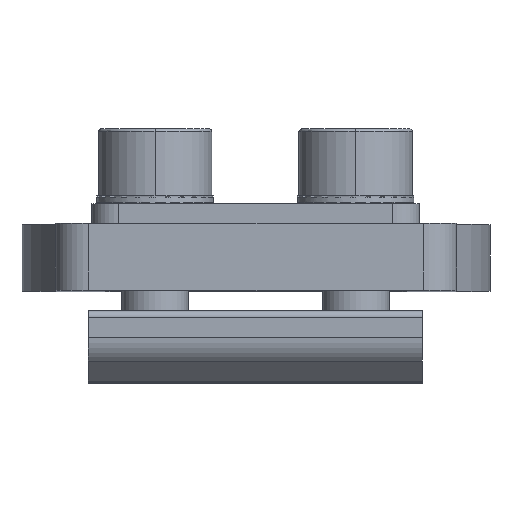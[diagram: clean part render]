
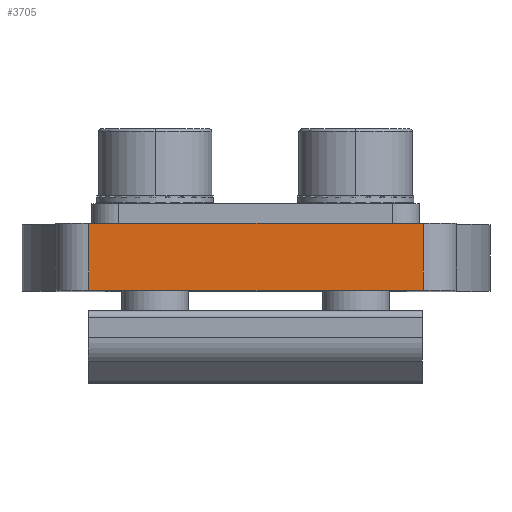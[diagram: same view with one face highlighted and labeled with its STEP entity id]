
A CAD part, top view. The second image highlights one B-rep face of the part: STEP entity #3705.
In plain terms, the highlighted planar face has unit normal (0, 0, 1).
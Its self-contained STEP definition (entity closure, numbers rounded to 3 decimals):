
#105 = ORIENTED_EDGE ( 'NONE', *, *, #301, .F. ) ;
#301 = EDGE_CURVE ( 'NONE', #7906, #17892, #2149, .T. ) ;
#2149 = LINE ( 'NONE', #11306, #20635 ) ;
#2618 = CARTESIAN_POINT ( 'NONE',  ( -117.321, 17.167, 83.547 ) ) ;
#3705 = ADVANCED_FACE ( 'NONE', ( #8026 ), #15107, .F. ) ;
#3897 = LINE ( 'NONE', #4269, #13562 ) ;
#4269 = CARTESIAN_POINT ( 'NONE',  ( -117.321, 22.167, 83.547 ) ) ;
#5994 = CARTESIAN_POINT ( 'NONE',  ( -104.821, 17.167, 83.547 ) ) ;
#6548 = DIRECTION ( 'NONE',  ( 1., 0., 0. ) ) ;
#6776 = EDGE_CURVE ( 'NONE', #7906, #11519, #13277, .T. ) ;
#7261 = CARTESIAN_POINT ( 'NONE',  ( -104.821, 17.167, 83.547 ) ) ;
#7340 = DIRECTION ( 'NONE',  ( 0., 0., -1. ) ) ;
#7814 = CARTESIAN_POINT ( 'NONE',  ( -129.821, 17.167, 83.547 ) ) ;
#7906 = VERTEX_POINT ( 'NONE', #7814 ) ;
#8026 = FACE_OUTER_BOUND ( 'NONE', #16784, .T. ) ;
#8328 = DIRECTION ( 'NONE',  ( 1., 0., 0. ) ) ;
#8414 = VECTOR ( 'NONE', #8456, 1000. ) ;
#8456 = DIRECTION ( 'NONE',  ( 0., 1., 0. ) ) ;
#9045 = ORIENTED_EDGE ( 'NONE', *, *, #10627, .T. ) ;
#10627 = EDGE_CURVE ( 'NONE', #11519, #20404, #19300, .T. ) ;
#11306 = CARTESIAN_POINT ( 'NONE',  ( -129.821, 19.667, 83.547 ) ) ;
#11519 = VERTEX_POINT ( 'NONE', #5994 ) ;
#11528 = ORIENTED_EDGE ( 'NONE', *, *, #21601, .F. ) ;
#12079 = VECTOR ( 'NONE', #6548, 1000. ) ;
#13277 = LINE ( 'NONE', #2618, #12079 ) ;
#13562 = VECTOR ( 'NONE', #8328, 1000. ) ;
#13927 = AXIS2_PLACEMENT_3D ( 'NONE', #7261, #7340, #15282 ) ;
#14195 = CARTESIAN_POINT ( 'NONE',  ( -104.821, 19.667, 83.547 ) ) ;
#15107 = PLANE ( 'NONE',  #13927 ) ;
#15282 = DIRECTION ( 'NONE',  ( -1., 0., 0. ) ) ;
#15986 = CARTESIAN_POINT ( 'NONE',  ( -104.821, 22.167, 83.547 ) ) ;
#16784 = EDGE_LOOP ( 'NONE', ( #11528, #105, #19139, #9045 ) ) ;
#17040 = DIRECTION ( 'NONE',  ( 0., 1., 0. ) ) ;
#17892 = VERTEX_POINT ( 'NONE', #18393 ) ;
#18393 = CARTESIAN_POINT ( 'NONE',  ( -129.821, 22.167, 83.547 ) ) ;
#19139 = ORIENTED_EDGE ( 'NONE', *, *, #6776, .T. ) ;
#19300 = LINE ( 'NONE', #14195, #8414 ) ;
#20404 = VERTEX_POINT ( 'NONE', #15986 ) ;
#20635 = VECTOR ( 'NONE', #17040, 1000. ) ;
#21601 = EDGE_CURVE ( 'NONE', #17892, #20404, #3897, .T. ) ;
